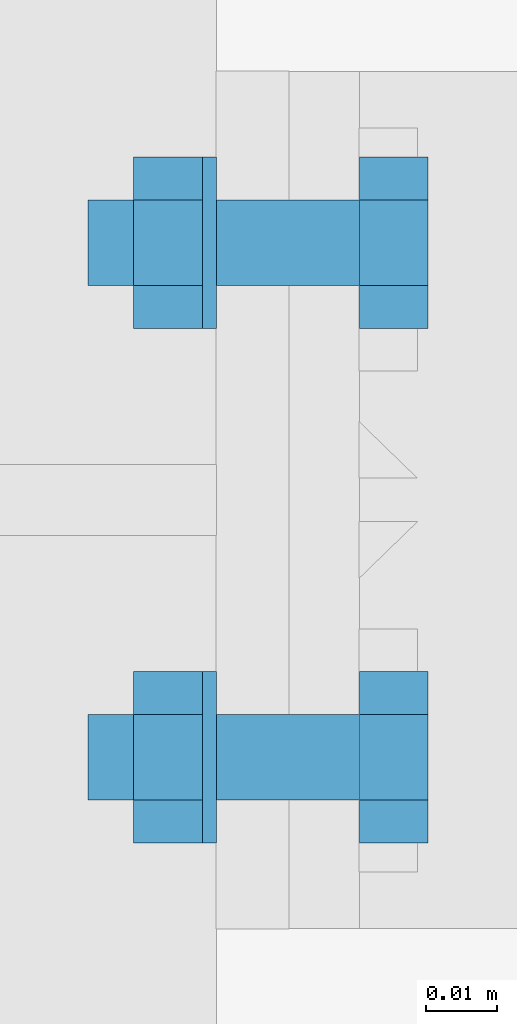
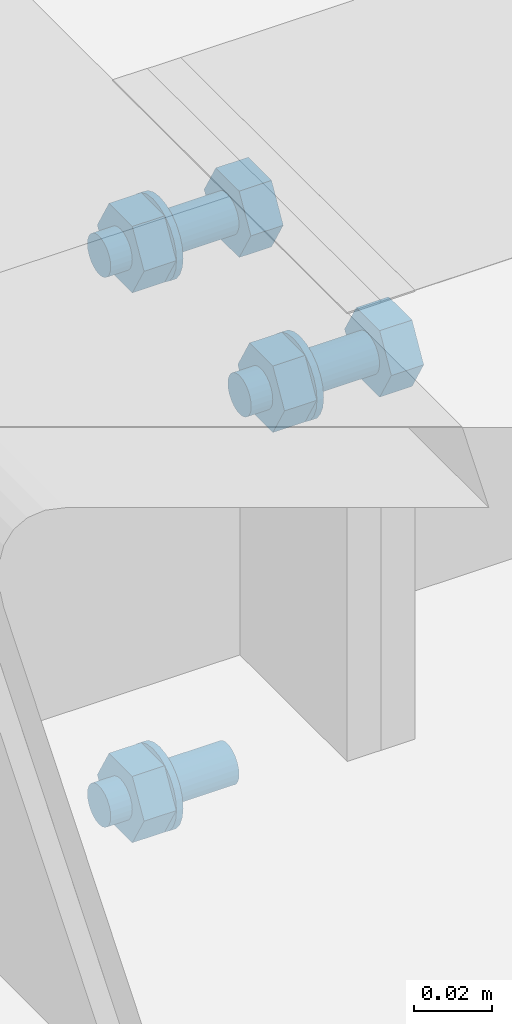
# One storey, part 39 of 66: 11 mechanical fasteners.
"""IFC4 building model written with IfcOpenShell, lengths in metres."""

import ifcopenshell
import ifcopenshell.guid

model = None  # the IFC model being written
_history = None  # IfcOwnerHistory: only IFC2X3 demands one
_inside = {}  # id of a spatial element -> (the spatial element, [elements in it])
_under = {}  # id of a project, library or spatial element -> (it, [spatial elements below it])
_declared = {}  # id of a project -> (the project, [libraries it declares])
_typed = {}  # id of a type object -> (the type object, [elements of that type])
_made_of = {}  # id of a material, layer set ... -> (it, [elements and type objects made of it])


def new_model(schema):
    """Start an empty IFC model of exactly this schema.

    Asked for "IFC4X3", IfcOpenShell would pick the latest addendum, in which some entities
    have other attributes; the version numbers below select the first issue.
    IFC2X3 requires an IfcOwnerHistory on every rooted entity: one is made here for all.
    """
    global model, _history
    if schema == "IFC4X3":
        model = ifcopenshell.file(schema_version=(4, 3, 0, 0))
    else:
        model = ifcopenshell.file(schema=schema)
    _inside.clear()
    _under.clear()
    _declared.clear()
    _typed.clear()
    _made_of.clear()
    _history = None
    if model.schema == "IFC2X3":
        org = make("IfcOrganization", Name="unknown")
        user = make(
            "IfcPersonAndOrganization",
            ThePerson=make("IfcPerson", FamilyName="unknown"),
            TheOrganization=org,
        )
        app = make(
            "IfcApplication",
            ApplicationDeveloper=org,
            Version="unknown",
            ApplicationFullName="unknown",
            ApplicationIdentifier="unknown",
        )
        _history = make(
            "IfcOwnerHistory",
            OwningUser=user,
            OwningApplication=app,
            ChangeAction="ADDED",
            CreationDate=0,
        )
    return model


def make(cls, **values):
    """One entity of the class cls with the attributes given. An attribute that is None is left unset."""
    return model.create_entity(
        cls, **{name: value for name, value in values.items() if value is not None}
    )


def rooted(cls, **values):
    """An entity with a GlobalId (a new one), such as an element, a storey or a relation."""
    return make(cls, GlobalId=ifcopenshell.guid.new(), OwnerHistory=_history, **values)


def si_unit(unit_type, name, prefix=None):
    """IfcSIUnit, for example si_unit("LENGTHUNIT", "METRE", prefix="MILLI")."""
    return make("IfcSIUnit", UnitType=unit_type, Prefix=prefix, Name=name)


def assignment(units):
    """IfcUnitAssignment: the units of a project."""
    return None if units is None else make("IfcUnitAssignment", Units=units)


def point(xyz):
    """IfcCartesianPoint."""
    return None if xyz is None else make("IfcCartesianPoint", Coordinates=xyz)


def direction(xyz):
    """IfcDirection."""
    return None if xyz is None else make("IfcDirection", DirectionRatios=xyz)


def frame(location, z_axis=None, x_axis=None):
    """IfcAxis2Placement3D, a coordinate frame: its origin and axes. An axis left out is left unset."""
    return make(
        "IfcAxis2Placement3D",
        Location=point(location),
        Axis=direction(z_axis),
        RefDirection=direction(x_axis),
    )


def origin_with_axes():
    """The frame at (0, 0, 0) with the z axis (0, 0, 1) and the x axis (1, 0, 0) written out."""
    return frame((0.0, 0.0, 0.0), z_axis=(0.0, 0.0, 1.0), x_axis=(1.0, 0.0, 0.0))


def place(relative_to, where):
    """IfcLocalPlacement: puts the frame where relative to a parent placement (None: the world)."""
    return make(
        "IfcLocalPlacement", PlacementRelTo=relative_to, RelativePlacement=where
    )


def context(
    kind, dimensions, precision=None, world=None, true_north=None, identifier=None
):
    """IfcGeometricRepresentationContext, for example the 3D "Model" context."""
    return make(
        "IfcGeometricRepresentationContext",
        ContextIdentifier=identifier,
        ContextType=kind,
        CoordinateSpaceDimension=dimensions,
        Precision=precision,
        WorldCoordinateSystem=world,
        TrueNorth=true_north,
    )


def project(units=None, contexts=None):
    """IfcProject with its units and contexts."""
    return rooted(
        "IfcProject",
        Name="project",
        RepresentationContexts=contexts,
        UnitsInContext=assignment(units),
    )


def spatial(cls, under=None, at=None, **own):
    """A site, building, storey or space (cls), placed at a placement, below another one or the project."""
    s = rooted(cls, ObjectPlacement=at, **own)
    if under is not None:
        _under.setdefault(under.id(), (under, []))[1].append(s)
    return s


def polyline(points):
    """IfcPolyline through the points."""
    return make("IfcPolyline", Points=[point(p) for p in points])


def outline(outer, holes=None, kind="AREA"):
    """IfcArbitraryClosedProfileDef: a profile drawn as a closed curve; with holes, ...WithVoids."""
    if holes is None:
        return make("IfcArbitraryClosedProfileDef", ProfileType=kind, OuterCurve=outer)
    return make(
        "IfcArbitraryProfileDefWithVoids",
        ProfileType=kind,
        OuterCurve=outer,
        InnerCurves=holes,
    )


def extrude(swept, where, along, depth):
    """IfcExtrudedAreaSolid: the profile swept, set in the frame where, extruded along a direction by depth."""
    return make(
        "IfcExtrudedAreaSolid",
        SweptArea=swept,
        Position=where,
        ExtrudedDirection=direction(along),
        Depth=depth,
    )


def shape(context_of_items, identifier, shape_type, items):
    """IfcShapeRepresentation: the items that make up one representation, for example the "Body"."""
    return make(
        "IfcShapeRepresentation",
        ContextOfItems=context_of_items,
        RepresentationIdentifier=identifier,
        RepresentationType=shape_type,
        Items=items,
    )


def made_of(thing, what):
    """Note that an element or type object is made of a material, layer set ...; save() writes the relation."""
    if what is not None:
        _made_of.setdefault(what.id(), (what, []))[1].append(thing)
    return thing


def type_object(cls, material=None, **own):
    """A type object (cls), such as IfcWallType, which elements share."""
    return made_of(rooted(cls, **own), material)


def element(
    cls,
    number,
    at=None,
    inside=None,
    cuts=None,
    type_object=None,
    material=None,
    context=None,
    identifier="Body",
    shape_type=None,
    held_by="IfcProductDefinitionShape",
    body=None,
    shapes=None,
    **own,
):
    """One element of the class cls, such as IfcWall. Its Tag is "e" and its number.

    at: its placement. inside: the storey or other place that contains it. cuts: it is an
    opening in that element (IfcRelVoidsElement). A single representation is given by context,
    identifier, shape_type and body (its items); several are given by shapes. held_by: the class
    of the entity that holds the representations. save() writes the other relations.
    """
    e = rooted(cls, Tag="e%d" % number, ObjectPlacement=at, **own)
    if body is not None:
        shapes = [shape(context, identifier, shape_type, body)]
    if shapes is not None:
        e.Representation = make(held_by, Representations=shapes)
    if inside is not None:
        _inside.setdefault(inside.id(), (inside, []))[1].append(e)
    if cuts is not None:
        rooted(
            "IfcRelVoidsElement", RelatingBuildingElement=cuts, RelatedOpeningElement=e
        )
    if type_object is not None:
        _typed.setdefault(type_object.id(), (type_object, []))[1].append(e)
    return made_of(e, material)


def aggregate(whole, parts):
    """IfcRelAggregates: a whole, such as a stair, and the parts it consists of."""
    return rooted("IfcRelAggregates", RelatingObject=whole, RelatedObjects=parts)


def save(model, path):
    """Write the relations noted so far, then the file.

    IfcRelAggregates (storeys below a building ...), IfcRelContainedInSpatialStructure (elements
    in a storey), IfcRelDefinesByType, IfcRelAssociatesMaterial and IfcRelDeclares: one each for
    every whole, place, type object, material and project.
    """
    for whole, parts in _under.values():
        aggregate(whole, parts)
    for where, things in _inside.values():
        rooted(
            "IfcRelContainedInSpatialStructure",
            RelatedElements=things,
            RelatingStructure=where,
        )
    for kind, things in _typed.values():
        rooted("IfcRelDefinesByType", RelatedObjects=things, RelatingType=kind)
    for what, things in _made_of.values():
        rooted("IfcRelAssociatesMaterial", RelatedObjects=things, RelatingMaterial=what)
    for by, libraries in _declared.values():
        rooted("IfcRelDeclares", RelatingContext=by, RelatedDefinitions=libraries)
    model.write(path)


model = new_model("IFC4")

# Units and contexts
model_context = context("Model", 3, precision=1e-05, world=origin_with_axes())
ifc_project = project(units=[si_unit("LENGTHUNIT", "METRE"), si_unit("AREAUNIT", "SQUARE_METRE"), si_unit("VOLUMEUNIT", "CUBIC_METRE"), si_unit("MASSUNIT", "GRAM", prefix="KILO"), si_unit("TIMEUNIT", "SECOND"), si_unit("PLANEANGLEUNIT", "RADIAN"), si_unit("SOLIDANGLEUNIT", "STERADIAN"), si_unit("THERMODYNAMICTEMPERATUREUNIT", "DEGREE_CELSIUS")], contexts=[model_context])

# Site, building, storey
placement_1 = place(None, origin_with_axes())
site = spatial("IfcSite", under=ifc_project, at=placement_1, Name="Italia", CompositionType="ELEMENT")
building = spatial("IfcBuilding", under=site, at=placement_1, Name="Uffici", CompositionType="ELEMENT")
storey_placement = place(None, frame((0.0, 0.0, 3.299999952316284), z_axis=(0.0, 0.0, 1.0), x_axis=(1.0, 0.0, 0.0)))
storey = spatial("IfcBuildingStorey", under=building, at=storey_placement, Name="Storey 1", CompositionType="ELEMENT", Elevation=3.299999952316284)

# Mechanical fasteners
mechanical_fastener_type_1 = type_object("IfcMechanicalFastenerType", Name="Collegamento -013_-014", PredefinedType="BOLT")
placement_2 = place(placement_1, origin_with_axes())
mechanical_fastener_1_placement = place(placement_2, origin_with_axes())
element("IfcMechanicalFastener", 1, at=mechanical_fastener_1_placement, inside=storey, type_object=mechanical_fastener_type_1, Name="Collegamento -013_-014", NominalDiameter=0.012, context=model_context, shape_type="SweptSolid", body=[
    extrude(outline(polyline([(0.0, 0.0), (-0.000204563, -0.00155282), (-0.000803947, -0.00300002), (-0.00175738, -0.00424266), (-0.00300002, -0.00519609), (-0.00444722, -0.00579548), (-0.00600004, -0.00600004), (-0.00755286, -0.00579548), (-0.00900006, -0.00519609), (-0.0102427, -0.00424266), (-0.0111961, -0.00300002), (-0.0117955, -0.00155282), (-0.0120001, 0.0), (-0.0117955, 0.00155282), (-0.0111961, 0.00300002), (-0.0102427, 0.00424266), (-0.00900006, 0.00519609), (-0.00755286, 0.00579548), (-0.00600004, 0.00600004), (-0.00444722, 0.00579548), (-0.00300002, 0.00519609), (-0.00175738, 0.00424266), (-0.000803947, 0.00300002), (-0.000204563, 0.00155282), (0.0, 0.0)])), frame((6.857, 3.63533, 3.094), z_axis=(1.0, 0.0, 0.0), x_axis=(0.0, 1.0, 0.0)), (0.0, 0.0, 1.0), 0.0380001),
])
mechanical_fastener_type_2 = type_object("IfcMechanicalFastenerType", Name="Collegamento -013_-014", PredefinedType="BOLT")
mechanical_fastener_2_placement = place(placement_2, origin_with_axes())
element("IfcMechanicalFastener", 2, at=mechanical_fastener_2_placement, inside=storey, type_object=mechanical_fastener_type_2, Name="Collegamento -013_-014", NominalDiameter=0.0119999, context=model_context, shape_type="SweptSolid", body=[
    extrude(outline(polyline([(0.0, 0.0), (-0.0120001, 0.0), (-0.0180001, 0.0103924), (-0.0120001, 0.0207846), (0.0, 0.0207846), (0.00600004, 0.0103924), (0.0, 0.0)])), frame((6.8634, 3.63533, 3.08361), z_axis=(1.0, 0.0, 0.0), x_axis=(0.0, 1.0, 0.0)), (0.0, 0.0, 1.0), 0.00960016),
])
mechanical_fastener_type_3 = type_object("IfcMechanicalFastenerType", Name="Collegamento -013_-014", PredefinedType="BOLT")
mechanical_fastener_3_placement = place(placement_2, origin_with_axes())
element("IfcMechanicalFastener", 3, at=mechanical_fastener_3_placement, inside=storey, type_object=mechanical_fastener_type_3, Name="Collegamento -013_-014", NominalDiameter=0.024, context=model_context, shape_type="SweptSolid", body=[
    extrude(outline(polyline([(0.0, 0.0), (-0.000408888, -0.00310588), (-0.00160789, -0.00600004), (-0.00351477, -0.00848532), (-0.00600004, -0.0103922), (-0.00889421, -0.0115912), (-0.0120001, -0.0120001), (-0.015106, -0.0115912), (-0.0180001, -0.0103922), (-0.0204854, -0.00848532), (-0.0223923, -0.00600004), (-0.0235913, -0.00310588), (-0.0240002, 0.0), (-0.0235913, 0.00310588), (-0.0223923, 0.00600004), (-0.0204854, 0.00848532), (-0.0180001, 0.0103922), (-0.015106, 0.0115912), (-0.0120001, 0.0120001), (-0.00889421, 0.0115912), (-0.00600004, 0.0103922), (-0.00351477, 0.00848532), (-0.00160789, 0.00600004), (-0.000408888, 0.00310588), (0.0, 0.0)])), frame((6.873, 3.64133, 3.094), z_axis=(1.0, 0.0, 0.0), x_axis=(0.0, 1.0, 0.0)), (0.0, 0.0, 1.0), 0.00199986),
])
mechanical_fastener_type_4 = type_object("IfcMechanicalFastenerType", Name="Collegamento -013_-014", PredefinedType="BOLT")
mechanical_fastener_4_placement = place(placement_2, origin_with_axes())
element("IfcMechanicalFastener", 4, at=mechanical_fastener_4_placement, inside=storey, type_object=mechanical_fastener_type_4, Name="Collegamento -013_-014", NominalDiameter=0.0119999, context=model_context, shape_type="SweptSolid", body=[
    extrude(outline(polyline([(0.0, 0.0), (-0.0120001, 0.0), (-0.0180001, 0.0103922), (-0.0120001, 0.0207846), (0.0, 0.0207846), (0.00600004, 0.0103922), (0.0, 0.0)])), frame((6.895, 3.56333, 3.25561), z_axis=(1.0, 0.0, 0.0), x_axis=(0.0, 1.0, 0.0)), (0.0, 0.0, 1.0), 0.00960016),
])
mechanical_fastener_type_5 = type_object("IfcMechanicalFastenerType", Name="Collegamento -013_-014", PredefinedType="BOLT")
mechanical_fastener_5_placement = place(placement_2, origin_with_axes())
element("IfcMechanicalFastener", 5, at=mechanical_fastener_5_placement, inside=storey, type_object=mechanical_fastener_type_5, Name="Collegamento -013_-014", NominalDiameter=0.012, context=model_context, shape_type="SweptSolid", body=[
    extrude(outline(polyline([(0.0, 0.0), (-0.000204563, -0.00155282), (-0.000803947, -0.00300002), (-0.00175738, -0.00424266), (-0.00300002, -0.00519609), (-0.00444722, -0.00579548), (-0.00600004, -0.00600004), (-0.00755286, -0.00579548), (-0.00900006, -0.00519609), (-0.0102427, -0.00424266), (-0.0111961, -0.00300002), (-0.0117955, -0.00155282), (-0.0120001, 0.0), (-0.0117955, 0.00155282), (-0.0111961, 0.00300002), (-0.0102427, 0.00424266), (-0.00900006, 0.00519609), (-0.00755286, 0.00579548), (-0.00600004, 0.00600004), (-0.00444722, 0.00579548), (-0.00300002, 0.00519609), (-0.00175738, 0.00424266), (-0.000803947, 0.00300002), (-0.000204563, 0.00155282), (0.0, 0.0)])), frame((6.857, 3.56333, 3.266), z_axis=(1.0, 0.0, 0.0), x_axis=(0.0, 1.0, 0.0)), (0.0, 0.0, 1.0), 0.0380001),
])
mechanical_fastener_type_6 = type_object("IfcMechanicalFastenerType", Name="Collegamento -013_-014", PredefinedType="BOLT")
mechanical_fastener_6_placement = place(placement_2, origin_with_axes())
element("IfcMechanicalFastener", 6, at=mechanical_fastener_6_placement, inside=storey, type_object=mechanical_fastener_type_6, Name="Collegamento -013_-014", NominalDiameter=0.0119999, context=model_context, shape_type="SweptSolid", body=[
    extrude(outline(polyline([(0.0, 0.0), (-0.0120001, 0.0), (-0.0180001, 0.0103922), (-0.0120001, 0.0207846), (0.0, 0.0207846), (0.00600004, 0.0103922), (0.0, 0.0)])), frame((6.8634, 3.56333, 3.25561), z_axis=(1.0, 0.0, 0.0), x_axis=(0.0, 1.0, 0.0)), (0.0, 0.0, 1.0), 0.00960016),
])
mechanical_fastener_type_7 = type_object("IfcMechanicalFastenerType", Name="Collegamento -013_-014", PredefinedType="BOLT")
mechanical_fastener_7_placement = place(placement_2, origin_with_axes())
element("IfcMechanicalFastener", 7, at=mechanical_fastener_7_placement, inside=storey, type_object=mechanical_fastener_type_7, Name="Collegamento -013_-014", NominalDiameter=0.024, context=model_context, shape_type="SweptSolid", body=[
    extrude(outline(polyline([(0.0, 0.0), (-0.000408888, -0.00310588), (-0.00160789, -0.00600004), (-0.00351477, -0.00848532), (-0.00600004, -0.0103922), (-0.00889421, -0.0115912), (-0.0120001, -0.0120001), (-0.015106, -0.0115912), (-0.0180001, -0.0103922), (-0.0204854, -0.00848532), (-0.0223923, -0.00600004), (-0.0235913, -0.00310588), (-0.0240002, 0.0), (-0.0235913, 0.00310588), (-0.0223923, 0.00600004), (-0.0204854, 0.00848532), (-0.0180001, 0.0103922), (-0.015106, 0.0115912), (-0.0120001, 0.0120001), (-0.00889421, 0.0115912), (-0.00600004, 0.0103922), (-0.00351477, 0.00848532), (-0.00160789, 0.00600004), (-0.000408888, 0.00310588), (0.0, 0.0)])), frame((6.873, 3.56933, 3.266), z_axis=(1.0, 0.0, 0.0), x_axis=(0.0, 1.0, 0.0)), (0.0, 0.0, 1.0), 0.00199986),
])
mechanical_fastener_type_8 = type_object("IfcMechanicalFastenerType", Name="Collegamento -013_-014", PredefinedType="BOLT")
mechanical_fastener_8_placement = place(placement_2, origin_with_axes())
element("IfcMechanicalFastener", 8, at=mechanical_fastener_8_placement, inside=storey, type_object=mechanical_fastener_type_8, Name="Collegamento -013_-014", NominalDiameter=0.0119999, context=model_context, shape_type="SweptSolid", body=[
    extrude(outline(polyline([(0.0, 0.0), (-0.0120001, 0.0), (-0.0180001, 0.0103922), (-0.0120001, 0.0207846), (0.0, 0.0207846), (0.00600004, 0.0103922), (0.0, 0.0)])), frame((6.895, 3.63533, 3.25561), z_axis=(1.0, 0.0, 0.0), x_axis=(0.0, 1.0, 0.0)), (0.0, 0.0, 1.0), 0.00960016),
])
mechanical_fastener_type_9 = type_object("IfcMechanicalFastenerType", Name="Collegamento -013_-014", PredefinedType="BOLT")
mechanical_fastener_9_placement = place(placement_2, origin_with_axes())
element("IfcMechanicalFastener", 9, at=mechanical_fastener_9_placement, inside=storey, type_object=mechanical_fastener_type_9, Name="Collegamento -013_-014", NominalDiameter=0.012, context=model_context, shape_type="SweptSolid", body=[
    extrude(outline(polyline([(0.0, 0.0), (-0.000204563, -0.00155282), (-0.000803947, -0.00300002), (-0.00175738, -0.00424266), (-0.00300002, -0.00519609), (-0.00444722, -0.00579548), (-0.00600004, -0.00600004), (-0.00755286, -0.00579548), (-0.00900006, -0.00519609), (-0.0102427, -0.00424266), (-0.0111961, -0.00300002), (-0.0117955, -0.00155282), (-0.0120001, 0.0), (-0.0117955, 0.00155282), (-0.0111961, 0.00300002), (-0.0102427, 0.00424266), (-0.00900006, 0.00519609), (-0.00755286, 0.00579548), (-0.00600004, 0.00600004), (-0.00444722, 0.00579548), (-0.00300002, 0.00519609), (-0.00175738, 0.00424266), (-0.000803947, 0.00300002), (-0.000204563, 0.00155282), (0.0, 0.0)])), frame((6.857, 3.63533, 3.266), z_axis=(1.0, 0.0, 0.0), x_axis=(0.0, 1.0, 0.0)), (0.0, 0.0, 1.0), 0.0380001),
])
mechanical_fastener_type_10 = type_object("IfcMechanicalFastenerType", Name="Collegamento -013_-014", PredefinedType="BOLT")
mechanical_fastener_10_placement = place(placement_2, origin_with_axes())
element("IfcMechanicalFastener", 10, at=mechanical_fastener_10_placement, inside=storey, type_object=mechanical_fastener_type_10, Name="Collegamento -013_-014", NominalDiameter=0.0119999, context=model_context, shape_type="SweptSolid", body=[
    extrude(outline(polyline([(0.0, 0.0), (-0.0120001, 0.0), (-0.0180001, 0.0103922), (-0.0120001, 0.0207846), (0.0, 0.0207846), (0.00600004, 0.0103922), (0.0, 0.0)])), frame((6.8634, 3.63533, 3.25561), z_axis=(1.0, 0.0, 0.0), x_axis=(0.0, 1.0, 0.0)), (0.0, 0.0, 1.0), 0.00960016),
])
mechanical_fastener_type_11 = type_object("IfcMechanicalFastenerType", Name="Collegamento -013_-014", PredefinedType="BOLT")
mechanical_fastener_11_placement = place(placement_2, origin_with_axes())
element("IfcMechanicalFastener", 11, at=mechanical_fastener_11_placement, inside=storey, type_object=mechanical_fastener_type_11, Name="Collegamento -013_-014", NominalDiameter=0.024, context=model_context, shape_type="SweptSolid", body=[
    extrude(outline(polyline([(0.0, 0.0), (-0.000408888, -0.00310588), (-0.00160789, -0.00600004), (-0.00351477, -0.00848532), (-0.00600004, -0.0103922), (-0.00889421, -0.0115912), (-0.0120001, -0.0120001), (-0.015106, -0.0115912), (-0.0180001, -0.0103922), (-0.0204854, -0.00848532), (-0.0223923, -0.00600004), (-0.0235913, -0.00310588), (-0.0240002, 0.0), (-0.0235913, 0.00310588), (-0.0223923, 0.00600004), (-0.0204854, 0.00848532), (-0.0180001, 0.0103922), (-0.015106, 0.0115912), (-0.0120001, 0.0120001), (-0.00889421, 0.0115912), (-0.00600004, 0.0103922), (-0.00351477, 0.00848532), (-0.00160789, 0.00600004), (-0.000408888, 0.00310588), (0.0, 0.0)])), frame((6.873, 3.64133, 3.266), z_axis=(1.0, 0.0, 0.0), x_axis=(0.0, 1.0, 0.0)), (0.0, 0.0, 1.0), 0.00199986),
])

save(model, "model.ifc")
